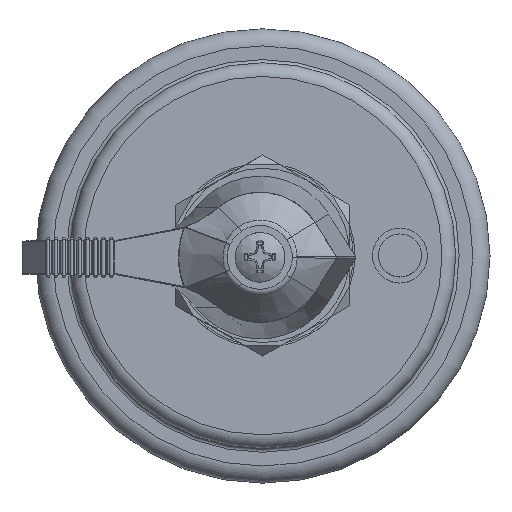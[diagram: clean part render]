
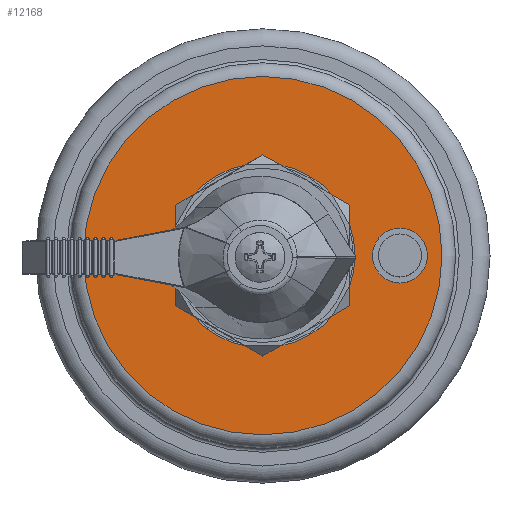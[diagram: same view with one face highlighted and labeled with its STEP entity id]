
A CAD part, top view. The second image highlights one B-rep face of the part: STEP entity #12168.
In plain terms, the highlighted planar face has unit normal (0, 0, 1).
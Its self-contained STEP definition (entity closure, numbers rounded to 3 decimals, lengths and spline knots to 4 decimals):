
#934=FACE_BOUND('',#2645,.T.);
#935=FACE_BOUND('',#2646,.T.);
#1202=PLANE('',#13334);
#1911=FACE_OUTER_BOUND('',#2644,.T.);
#2644=EDGE_LOOP('',(#11135));
#2645=EDGE_LOOP('',(#11136));
#2646=EDGE_LOOP('',(#11137));
#4555=CIRCLE('',#13271,0.16);
#4556=CIRCLE('',#13274,1.045);
#4572=CIRCLE('',#13330,0.475);
#5638=VERTEX_POINT('',#36035);
#5639=VERTEX_POINT('',#36040);
#5714=VERTEX_POINT('',#38475);
#7405=EDGE_CURVE('',#5638,#5638,#4555,.T.);
#7406=EDGE_CURVE('',#5639,#5639,#4556,.T.);
#7521=EDGE_CURVE('',#5714,#5714,#4572,.T.);
#11135=ORIENTED_EDGE('',*,*,#7406,.F.);
#11136=ORIENTED_EDGE('',*,*,#7405,.T.);
#11137=ORIENTED_EDGE('',*,*,#7521,.T.);
#12168=ADVANCED_FACE('',(#1911,#934,#935),#1202,.T.);
#13271=AXIS2_PLACEMENT_3D('',#36037,#16082,#16083);
#13274=AXIS2_PLACEMENT_3D('',#36041,#16088,#16089);
#13330=AXIS2_PLACEMENT_3D('',#38477,#16232,#16233);
#13334=AXIS2_PLACEMENT_3D('',#38482,#16240,#16241);
#16082=DIRECTION('center_axis',(0.,0.,-1.));
#16083=DIRECTION('ref_axis',(-1.,0.,0.));
#16088=DIRECTION('center_axis',(0.,0.,-1.));
#16089=DIRECTION('ref_axis',(-0.56,0.828,0.));
#16232=DIRECTION('center_axis',(0.,0.,-1.));
#16233=DIRECTION('ref_axis',(-1.,0.,0.));
#16240=DIRECTION('center_axis',(0.,0.,1.));
#16241=DIRECTION('ref_axis',(-1.,0.,0.));
#36035=CARTESIAN_POINT('',(0.96,0.,1.42));
#36037=CARTESIAN_POINT('Origin',(0.8,0.,1.42));
#36040=CARTESIAN_POINT('',(-1.045,0.,1.42));
#36041=CARTESIAN_POINT('Origin',(0.,0.,1.42));
#38475=CARTESIAN_POINT('',(0.475,0.,1.42));
#38477=CARTESIAN_POINT('Origin',(0.,0.,1.42));
#38482=CARTESIAN_POINT('Origin',(0.,0.,1.42));
